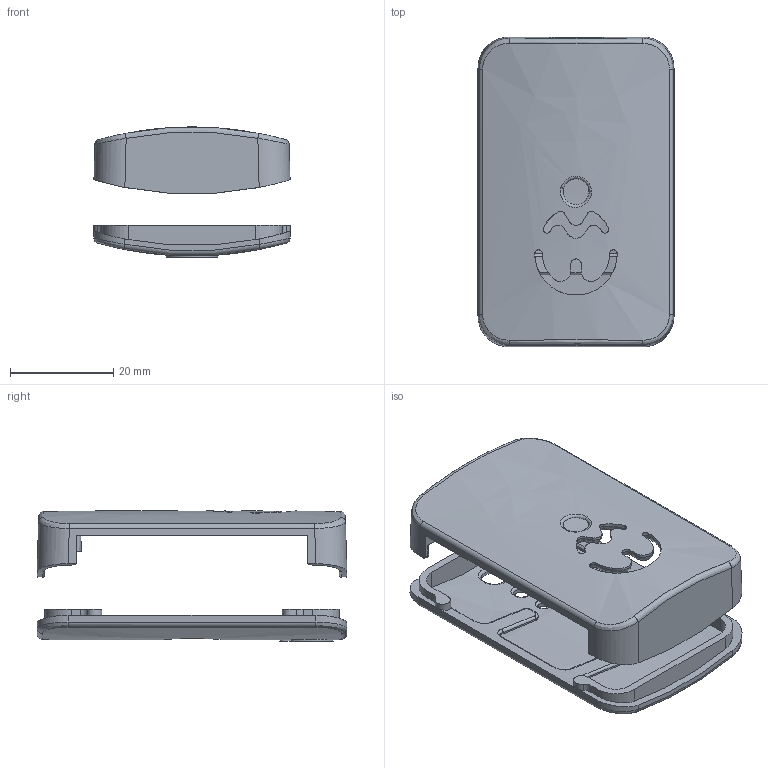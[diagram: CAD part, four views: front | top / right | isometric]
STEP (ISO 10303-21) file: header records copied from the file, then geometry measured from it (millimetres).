
FILE_DESCRIPTION(/* description */ (''),/* implementation_level */ '2;1');
FILE_NAME(/* name */ '充电宝外壳2_x_t.stp',/* time_stamp */ '2019-05-02T02:39:45+08:00',/* author */ (''),/* organization */ (''),/* preprocessor_version */ 'ST-DEVELOPER v16',/* originating_system */ 'SIEMENS PLM Software NX 10.0',/* authorisation */ '');
FILE_SCHEMA (('AUTOMOTIVE_DESIGN { 1 0 10303 214 3 1 1 1 }'));
Length unit declared in the file: millimetre
Products named in the file (3): 充电宝外壳2_id6_x_t; 充电宝外壳2_id11_x_t; 充电宝外壳2_x_t
Assembly tree (2 placements, depth 2):
  充电宝外壳2_x_t
    充电宝外壳2_id11_x_t
    充电宝外壳2_id6_x_t
Bounding box: 38 x 60 x 25.2 mm (x, y, z)
Volume: 9586 mm3; surface area: 12077 mm2
Topology: 2 solids, 2 shells, 272 faces, 700 edges, 436 vertices
Faces by surface type: bspline 190, plane 59, cylinder 13, torus 10
Entity records: 12741 total; most frequent: CARTESIAN_POINT 8551, ORIENTED_EDGE 1400, EDGE_CURVE 700, VERTEX_POINT 436, B_SPLINE_CURVE_WITH_KNOTS 387, EDGE_LOOP 288, ADVANCED_FACE 272, FACE_OUTER_BOUND 266
